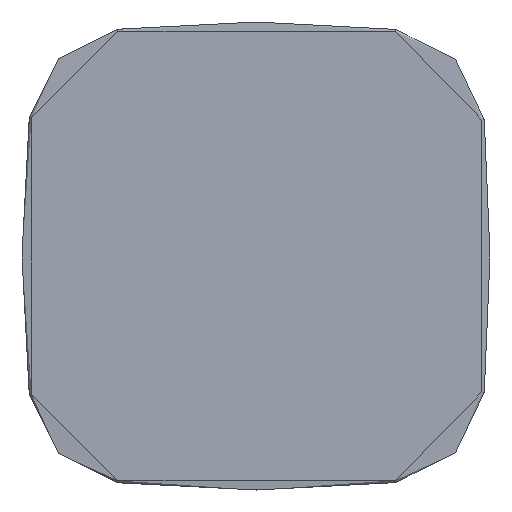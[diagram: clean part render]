
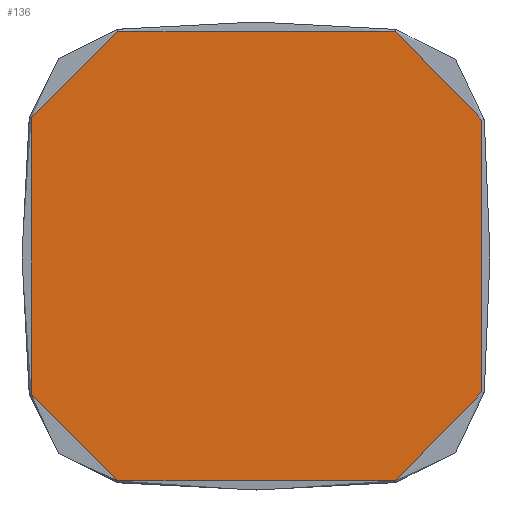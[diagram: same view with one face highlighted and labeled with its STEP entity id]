
A CAD part, top view. The second image highlights one B-rep face of the part: STEP entity #136.
In plain terms, the highlighted planar face has unit normal (0, 0, 1).
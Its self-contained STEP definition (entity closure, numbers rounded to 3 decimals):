
#17=(
BOUNDED_CURVE()
B_SPLINE_CURVE(2,(#5116,#5117,#5118),.UNSPECIFIED.,.F.,.F.)
B_SPLINE_CURVE_WITH_KNOTS((3,3),(0.,707.684),.UNSPECIFIED.)
CURVE()
GEOMETRIC_REPRESENTATION_ITEM()
RATIONAL_B_SPLINE_CURVE((1.,0.993,1.))
REPRESENTATION_ITEM('')
);
#23=(
BOUNDED_CURVE()
B_SPLINE_CURVE(2,(#5134,#5135,#5136),.UNSPECIFIED.,.F.,.F.)
B_SPLINE_CURVE_WITH_KNOTS((3,3),(0.,336.859),.UNSPECIFIED.)
CURVE()
GEOMETRIC_REPRESENTATION_ITEM()
RATIONAL_B_SPLINE_CURVE((1.,0.783,1.))
REPRESENTATION_ITEM('')
);
#28=(
BOUNDED_CURVE()
B_SPLINE_CURVE(2,(#5149,#5150,#5151),.UNSPECIFIED.,.F.,.F.)
B_SPLINE_CURVE_WITH_KNOTS((3,3),(0.,711.286),.UNSPECIFIED.)
CURVE()
GEOMETRIC_REPRESENTATION_ITEM()
RATIONAL_B_SPLINE_CURVE((1.,0.993,1.))
REPRESENTATION_ITEM('')
);
#33=(
BOUNDED_CURVE()
B_SPLINE_CURVE(2,(#5164,#5165,#5166),.UNSPECIFIED.,.F.,.F.)
B_SPLINE_CURVE_WITH_KNOTS((3,3),(0.,341.613),.UNSPECIFIED.)
CURVE()
GEOMETRIC_REPRESENTATION_ITEM()
RATIONAL_B_SPLINE_CURVE((1.,0.777,1.))
REPRESENTATION_ITEM('')
);
#38=(
BOUNDED_CURVE()
B_SPLINE_CURVE(2,(#5179,#5180,#5181),.UNSPECIFIED.,.F.,.F.)
B_SPLINE_CURVE_WITH_KNOTS((3,3),(0.,696.375),.UNSPECIFIED.)
CURVE()
GEOMETRIC_REPRESENTATION_ITEM()
RATIONAL_B_SPLINE_CURVE((1.,0.996,1.))
REPRESENTATION_ITEM('')
);
#42=(
BOUNDED_CURVE()
B_SPLINE_CURVE(2,(#5191,#5192,#5193),.UNSPECIFIED.,.F.,.F.)
B_SPLINE_CURVE_WITH_KNOTS((3,3),(0.,341.613),.UNSPECIFIED.)
CURVE()
GEOMETRIC_REPRESENTATION_ITEM()
RATIONAL_B_SPLINE_CURVE((1.,0.777,1.))
REPRESENTATION_ITEM('')
);
#47=(
BOUNDED_CURVE()
B_SPLINE_CURVE(2,(#5206,#5207,#5208),.UNSPECIFIED.,.F.,.F.)
B_SPLINE_CURVE_WITH_KNOTS((3,3),(0.,711.286),.UNSPECIFIED.)
CURVE()
GEOMETRIC_REPRESENTATION_ITEM()
RATIONAL_B_SPLINE_CURVE((1.,0.993,1.))
REPRESENTATION_ITEM('')
);
#51=(
BOUNDED_CURVE()
B_SPLINE_CURVE(2,(#5218,#5219,#5220),.UNSPECIFIED.,.F.,.F.)
B_SPLINE_CURVE_WITH_KNOTS((3,3),(0.,336.859),.UNSPECIFIED.)
CURVE()
GEOMETRIC_REPRESENTATION_ITEM()
RATIONAL_B_SPLINE_CURVE((1.,0.783,1.))
REPRESENTATION_ITEM('')
);
#136=ADVANCED_FACE('',(#202),#802,.T.);
#202=FACE_OUTER_BOUND('',#268,.T.);
#268=EDGE_LOOP('',(#485,#486,#487,#488,#489,#490,#491,#492));
#485=ORIENTED_EDGE('',*,*,#688,.T.);
#486=ORIENTED_EDGE('',*,*,#692,.T.);
#487=ORIENTED_EDGE('',*,*,#658,.T.);
#488=ORIENTED_EDGE('',*,*,#664,.T.);
#489=ORIENTED_EDGE('',*,*,#669,.T.);
#490=ORIENTED_EDGE('',*,*,#674,.T.);
#491=ORIENTED_EDGE('',*,*,#679,.T.);
#492=ORIENTED_EDGE('',*,*,#683,.T.);
#658=EDGE_CURVE('',#771,#772,#17,.T.);
#664=EDGE_CURVE('',#772,#768,#23,.T.);
#669=EDGE_CURVE('',#768,#769,#28,.T.);
#674=EDGE_CURVE('',#769,#770,#33,.T.);
#679=EDGE_CURVE('',#770,#767,#38,.T.);
#683=EDGE_CURVE('',#767,#765,#42,.T.);
#688=EDGE_CURVE('',#765,#766,#47,.T.);
#692=EDGE_CURVE('',#766,#771,#51,.T.);
#765=VERTEX_POINT('',#5085);
#766=VERTEX_POINT('',#5086);
#767=VERTEX_POINT('',#5087);
#768=VERTEX_POINT('',#5088);
#769=VERTEX_POINT('',#5089);
#770=VERTEX_POINT('',#5090);
#771=VERTEX_POINT('',#5091);
#772=VERTEX_POINT('',#5092);
#802=PLANE('',#1059);
#1059=AXIS2_PLACEMENT_3D('',#4932,#1094,$);
#1094=DIRECTION('',(0.,0.,1.));
#4932=CARTESIAN_POINT('',(-1826.189,-1026.728,58.432));
#5085=CARTESIAN_POINT('',(-719.539,296.648,58.432));
#5086=CARTESIAN_POINT('',(-1429.26,297.061,58.432));
#5087=CARTESIAN_POINT('',(-498.587,70.945,58.432));
#5088=CARTESIAN_POINT('',(-1429.26,-850.516,58.432));
#5089=CARTESIAN_POINT('',(-719.539,-850.103,58.432));
#5090=CARTESIAN_POINT('',(-498.587,-624.4,58.432));
#5091=CARTESIAN_POINT('',(-1649.978,76.343,58.432));
#5092=CARTESIAN_POINT('',(-1649.978,-629.799,58.432));
#5116=CARTESIAN_POINT('',(-1649.978,76.343,58.432));
#5117=CARTESIAN_POINT('',(-1690.533,-276.728,58.432));
#5118=CARTESIAN_POINT('',(-1649.978,-629.799,58.432));
#5134=CARTESIAN_POINT('',(-1649.978,-629.799,58.432));
#5135=CARTESIAN_POINT('',(-1627.237,-827.776,58.432));
#5136=CARTESIAN_POINT('',(-1429.26,-850.516,58.432));
#5149=CARTESIAN_POINT('',(-1429.26,-850.516,58.432));
#5150=CARTESIAN_POINT('',(-1074.376,-891.28,58.432));
#5151=CARTESIAN_POINT('',(-719.539,-850.103,58.432));
#5164=CARTESIAN_POINT('',(-719.539,-850.103,58.432));
#5165=CARTESIAN_POINT('',(-517.71,-826.682,58.432));
#5166=CARTESIAN_POINT('',(-498.587,-624.4,58.432));
#5179=CARTESIAN_POINT('',(-498.587,-624.4,58.432));
#5180=CARTESIAN_POINT('',(-465.718,-276.728,58.432));
#5181=CARTESIAN_POINT('',(-498.587,70.945,58.432));
#5191=CARTESIAN_POINT('',(-498.587,70.945,58.432));
#5192=CARTESIAN_POINT('',(-517.71,273.227,58.432));
#5193=CARTESIAN_POINT('',(-719.539,296.648,58.432));
#5206=CARTESIAN_POINT('',(-719.539,296.648,58.432));
#5207=CARTESIAN_POINT('',(-1074.376,337.825,58.432));
#5208=CARTESIAN_POINT('',(-1429.26,297.061,58.432));
#5218=CARTESIAN_POINT('',(-1429.26,297.061,58.432));
#5219=CARTESIAN_POINT('',(-1627.237,274.32,58.432));
#5220=CARTESIAN_POINT('',(-1649.978,76.343,58.432));
